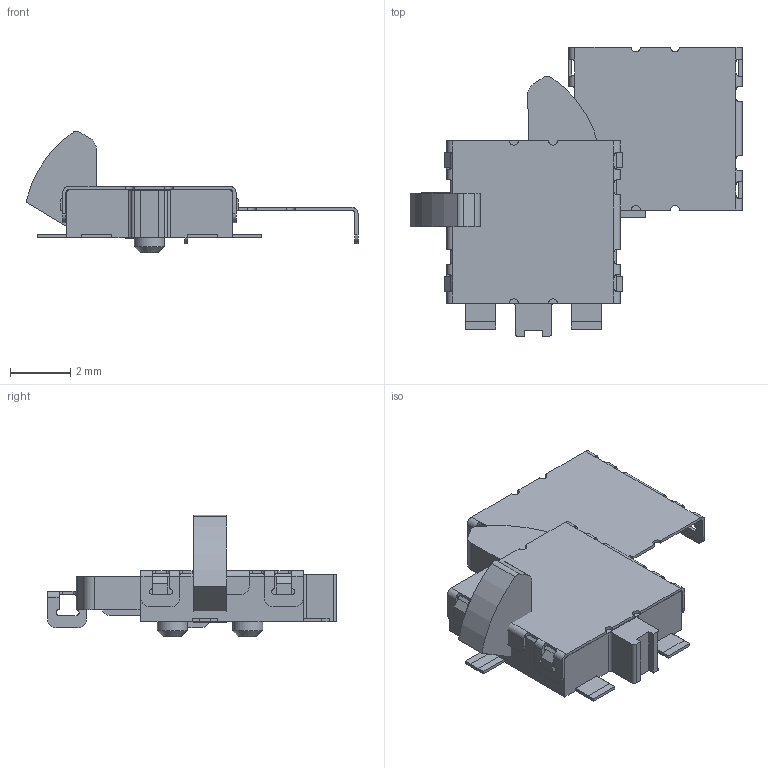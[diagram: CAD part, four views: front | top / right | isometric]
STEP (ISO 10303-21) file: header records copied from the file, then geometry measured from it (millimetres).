
FILE_DESCRIPTION( ( 'Unknown' ), '1' );
FILE_NAME( '//Ntcw022/edgesv/fsw/ユーザ提出用データ/ﾃﾞｨﾃｸﾀｰｽｲｯﾁ/ESE31/ese31r11t-std-sk.stp', 'Unknown', ( 'Unknown' ), ( 'Unknown' ), 'PSStep 10.0', 'Unknown', ' ' );
FILE_SCHEMA( ( 'AUTOMOTIVE_DESIGN { 1 0 10303 214 1 1 1 1 }' ) );
Length unit declared in the file: millimetre
Products named in the file (8): Assem1; sw-3d-131-e31cs2-r-pc; sw-3d-131-e31ts1-sk; sw-3d-131-e31lv7-sk; sw-3d-131-e31fm4-sk
Bounding box: 11.02 x 9.6 x 4.04 mm (x, y, z)
Volume: 107.6 mm3; surface area: 462.4 mm2
Topology: 14 solids, 14 shells, 468 faces, 1234 edges, 784 vertices
Faces by surface type: plane 296, cylinder 168, cone 4
Full cylindrical faces by diameter (mm): 0.64 x2, 0.68 x2, 1 x4
Entity records: 9630 total; most frequent: CARTESIAN_POINT 1821, ORIENTED_EDGE 1222, DIRECTION 1185, EDGE_CURVE 611, LINE 457, VECTOR 457, VERTEX_POINT 392, AXIS2_PLACEMENT_3D 364
